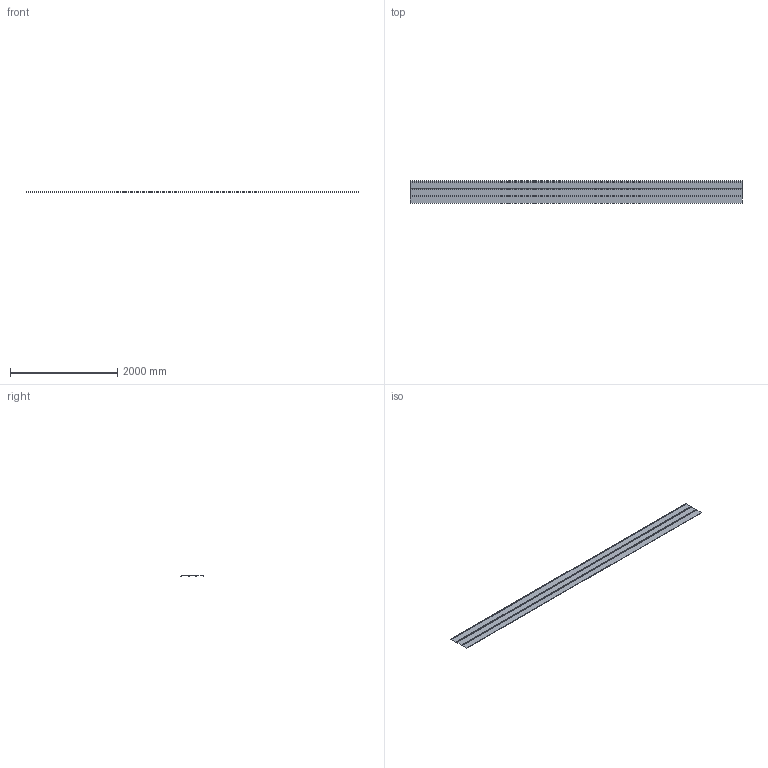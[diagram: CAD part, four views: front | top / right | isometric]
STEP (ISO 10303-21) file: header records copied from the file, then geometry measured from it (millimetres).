
FILE_DESCRIPTION(/* description */ (''),/* implementation_level */ '2;1');
FILE_NAME(/* name */ 'PREFA_~1',/* time_stamp */ '2020-07-21T12:49:43+02:00',/* author */ (''),/* organization */ (''),/* preprocessor_version */ 'ST-DEVELOPER v15',/* originating_system */ '',/* authorisation */ '');
FILE_SCHEMA (('AUTOMOTIVE_DESIGN'));
Length unit declared in the file: millimetre
Products named in the file (1): Document
Bounding box: 6200 x 422.6 x 6.5 mm (x, y, z)
Surface area: 2922587.7 mm2 (no closed solid volume)
Topology: 0 solids, 3 shells, 24 faces, 75 edges, 54 vertices
Faces by surface type: plane 12, bspline 12
Entity records: 729 total; most frequent: CARTESIAN_POINT 326, ORIENTED_EDGE 96, EDGE_CURVE 75, VERTEX_POINT 54, B_SPLINE_CURVE_WITH_KNOTS 39, ADVANCED_FACE 24, FACE_OUTER_BOUND 24, EDGE_LOOP 24
